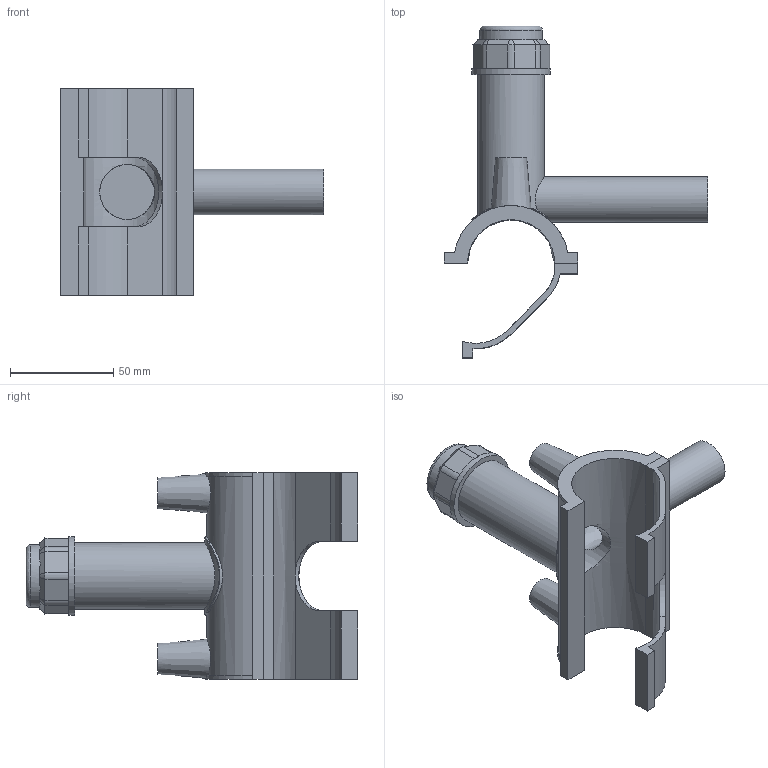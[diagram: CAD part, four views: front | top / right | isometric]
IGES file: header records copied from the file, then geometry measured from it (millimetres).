
Global section: file name: 5963BU03013007.ipt; native system: Autodesk Inventor 2019; preprocessor: unknown; author: KIM; date: 20210830.101437; units: millimetre
Bounding box: 127.25 x 160.41 x 100.08 mm (x, y, z)
Volume: 128252.9 mm3; surface area: 62553.6 mm2
Topology: 2 solids, 2 shells, 108 faces, 277 edges, 181 vertices
Faces by surface type: plane 65, cylinder 22, revolution 10, cone 10, bspline 1
Full cylindrical faces by diameter (mm): 4 x2, 22.1 x1, 30.312 x1, 32.206 x1, 37.89 x2
